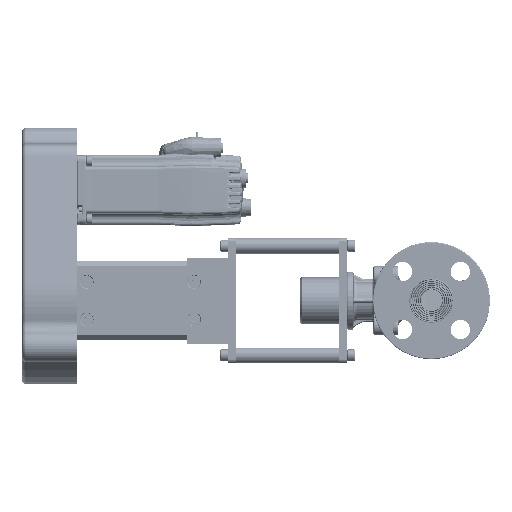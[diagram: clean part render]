
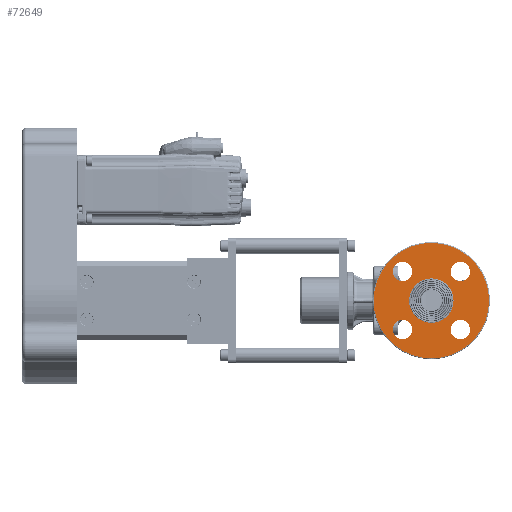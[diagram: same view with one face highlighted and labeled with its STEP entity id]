
A CAD part, left-side view. The second image highlights one B-rep face of the part: STEP entity #72649.
In plain terms, the highlighted planar face has unit normal (-1, 0, 0) as drawn and (1, 0, 0) by its records, which use the part's own axes.
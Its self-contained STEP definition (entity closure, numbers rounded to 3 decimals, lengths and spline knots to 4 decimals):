
#1440 = EDGE_LOOP ( 'NONE', ( #9966, #9967 ) ) ;
#1455 = EDGE_LOOP ( 'NONE', ( #9964, #9965 ) ) ;
#1493 = EDGE_LOOP ( 'NONE', ( #9970, #9971 ) ) ;
#1563 = EDGE_LOOP ( 'NONE', ( #9960, #9961 ) ) ;
#1647 = EDGE_LOOP ( 'NONE', ( #9968, #9969 ) ) ;
#1649 = EDGE_LOOP ( 'NONE', ( #9962, #9963 ) ) ;
#9960 = ORIENTED_EDGE ( 'NONE', *, *, #69427, .T. ) ;
#9961 = ORIENTED_EDGE ( 'NONE', *, *, #67299, .T. ) ;
#9962 = ORIENTED_EDGE ( 'NONE', *, *, #69428, .T. ) ;
#9963 = ORIENTED_EDGE ( 'NONE', *, *, #67321, .T. ) ;
#9964 = ORIENTED_EDGE ( 'NONE', *, *, #67752, .T. ) ;
#9965 = ORIENTED_EDGE ( 'NONE', *, *, #69395, .T. ) ;
#9966 = ORIENTED_EDGE ( 'NONE', *, *, #67745, .T. ) ;
#9967 = ORIENTED_EDGE ( 'NONE', *, *, #69396, .T. ) ;
#9968 = ORIENTED_EDGE ( 'NONE', *, *, #67737, .T. ) ;
#9969 = ORIENTED_EDGE ( 'NONE', *, *, #69397, .T. ) ;
#9970 = ORIENTED_EDGE ( 'NONE', *, *, #67731, .T. ) ;
#9971 = ORIENTED_EDGE ( 'NONE', *, *, #69398, .T. ) ;
#11886 = VERTEX_POINT ( 'NONE', #35106 ) ;
#11941 = VERTEX_POINT ( 'NONE', #35034 ) ;
#11991 = VERTEX_POINT ( 'NONE', #35253 ) ;
#12008 = VERTEX_POINT ( 'NONE', #35213 ) ;
#12083 = VERTEX_POINT ( 'NONE', #37462 ) ;
#12100 = VERTEX_POINT ( 'NONE', #36263 ) ;
#15211 = DIRECTION ( 'NONE',  ( -1., 0., 0. ) ) ;
#15218 = PLANE ( 'NONE',  #88875 ) ;
#15220 = CARTESIAN_POINT ( 'NONE',  ( 3.7825, 1.875, 0. ) ) ;
#15222 = DIRECTION ( 'NONE',  ( 0., 0., 1. ) ) ;
#31041 = CIRCLE ( 'NONE', #105090, 1.845 ) ;
#31054 = CIRCLE ( 'NONE', #105118, 0.71 ) ;
#33884 = CARTESIAN_POINT ( 'NONE',  ( 3.7825, 0., 1.845 ) ) ;
#33896 = CARTESIAN_POINT ( 'NONE',  ( 3.7825, -0.9263, -1.2363 ) ) ;
#33984 = CARTESIAN_POINT ( 'NONE',  ( 3.7825, 0.9263, -1.2363 ) ) ;
#34101 = CARTESIAN_POINT ( 'NONE',  ( 3.7825, 0.9263, -0.6163 ) ) ;
#35034 = CARTESIAN_POINT ( 'NONE',  ( 3.7825, 0.9263, 0.6163 ) ) ;
#35106 = CARTESIAN_POINT ( 'NONE',  ( 3.7825, 0., -0.71 ) ) ;
#35213 = CARTESIAN_POINT ( 'NONE',  ( 3.7825, 0.9263, 1.2363 ) ) ;
#35253 = CARTESIAN_POINT ( 'NONE',  ( 3.7825, -0.9263, -0.6163 ) ) ;
#36263 = CARTESIAN_POINT ( 'NONE',  ( 3.7825, 0., 0.71 ) ) ;
#37462 = CARTESIAN_POINT ( 'NONE',  ( 3.7825, 0., -1.845 ) ) ;
#47023 = CARTESIAN_POINT ( 'NONE',  ( 3.7825, -0.9263, 1.2363 ) ) ;
#47054 = CARTESIAN_POINT ( 'NONE',  ( 3.7825, -0.9263, 0.6163 ) ) ;
#67299 = EDGE_CURVE ( 'NONE', #12083, #102122, #31041, .T. ) ;
#67321 = EDGE_CURVE ( 'NONE', #11886, #12100, #31054, .T. ) ;
#67731 = EDGE_CURVE ( 'NONE', #102149, #11991, #81716, .T. ) ;
#67737 = EDGE_CURVE ( 'NONE', #93982, #93884, #81722, .T. ) ;
#67745 = EDGE_CURVE ( 'NONE', #11941, #12008, #81728, .T. ) ;
#67752 = EDGE_CURVE ( 'NONE', #102372, #102666, #81734, .T. ) ;
#69395 = EDGE_CURVE ( 'NONE', #102666, #102372, #108672, .T. ) ;
#69396 = EDGE_CURVE ( 'NONE', #12008, #11941, #108674, .T. ) ;
#69397 = EDGE_CURVE ( 'NONE', #93884, #93982, #108677, .T. ) ;
#69398 = EDGE_CURVE ( 'NONE', #11991, #102149, #108680, .T. ) ;
#69427 = EDGE_CURVE ( 'NONE', #102122, #12083, #108764, .T. ) ;
#69428 = EDGE_CURVE ( 'NONE', #12100, #11886, #108767, .T. ) ;
#72649 = ADVANCED_FACE ( 'NONE', ( #138603, #138611, #138573, #138607, #138609, #138612 ), #15218, .F. ) ;
#80414 = CARTESIAN_POINT ( 'NONE',  ( 3.7825, 0., 0. ) ) ;
#80416 = DIRECTION ( 'NONE',  ( 1., 0., 0. ) ) ;
#80418 = DIRECTION ( 'NONE',  ( 0., 0., 1. ) ) ;
#80495 = CARTESIAN_POINT ( 'NONE',  ( 3.7825, 0., 0. ) ) ;
#80497 = DIRECTION ( 'NONE',  ( -1., 0., 0. ) ) ;
#80499 = DIRECTION ( 'NONE',  ( 0., 0., 1. ) ) ;
#81716 = CIRCLE ( 'NONE', #85731, 0.31 ) ;
#81722 = CIRCLE ( 'NONE', #85733, 0.31 ) ;
#81728 = CIRCLE ( 'NONE', #85735, 0.31 ) ;
#81734 = CIRCLE ( 'NONE', #85737, 0.31 ) ;
#85731 = AXIS2_PLACEMENT_3D ( 'NONE', #90392, #90394, #90396 ) ;
#85733 = AXIS2_PLACEMENT_3D ( 'NONE', #90416, #90418, #90420 ) ;
#85735 = AXIS2_PLACEMENT_3D ( 'NONE', #90440, #90441, #90443 ) ;
#85737 = AXIS2_PLACEMENT_3D ( 'NONE', #90463, #90465, #90467 ) ;
#86497 = AXIS2_PLACEMENT_3D ( 'NONE', #117696, #117699, #117702 ) ;
#86500 = AXIS2_PLACEMENT_3D ( 'NONE', #117708, #117711, #117714 ) ;
#86502 = AXIS2_PLACEMENT_3D ( 'NONE', #117721, #117723, #117726 ) ;
#86504 = AXIS2_PLACEMENT_3D ( 'NONE', #117733, #117736, #117738 ) ;
#86572 = AXIS2_PLACEMENT_3D ( 'NONE', #118062, #118065, #118068 ) ;
#86574 = AXIS2_PLACEMENT_3D ( 'NONE', #118074, #118077, #118080 ) ;
#88875 = AXIS2_PLACEMENT_3D ( 'NONE', #15220, #15211, #15222 ) ;
#90392 = CARTESIAN_POINT ( 'NONE',  ( 3.7825, -0.9263, -0.9263 ) ) ;
#90394 = DIRECTION ( 'NONE',  ( -1., 0., 0. ) ) ;
#90396 = DIRECTION ( 'NONE',  ( 0., 0., 1. ) ) ;
#90416 = CARTESIAN_POINT ( 'NONE',  ( 3.7825, -0.9263, 0.9263 ) ) ;
#90418 = DIRECTION ( 'NONE',  ( -1., 0., 0. ) ) ;
#90420 = DIRECTION ( 'NONE',  ( 0., 0., 1. ) ) ;
#90440 = CARTESIAN_POINT ( 'NONE',  ( 3.7825, 0.9263, 0.9263 ) ) ;
#90441 = DIRECTION ( 'NONE',  ( -1., 0., 0. ) ) ;
#90443 = DIRECTION ( 'NONE',  ( 0., 0., 1. ) ) ;
#90463 = CARTESIAN_POINT ( 'NONE',  ( 3.7825, 0.9263, -0.9263 ) ) ;
#90465 = DIRECTION ( 'NONE',  ( -1., 0., 0. ) ) ;
#90467 = DIRECTION ( 'NONE',  ( 0., 0., 1. ) ) ;
#93884 = VERTEX_POINT ( 'NONE', #47023 ) ;
#93982 = VERTEX_POINT ( 'NONE', #47054 ) ;
#102122 = VERTEX_POINT ( 'NONE', #33884 ) ;
#102149 = VERTEX_POINT ( 'NONE', #33896 ) ;
#102372 = VERTEX_POINT ( 'NONE', #33984 ) ;
#102666 = VERTEX_POINT ( 'NONE', #34101 ) ;
#105090 = AXIS2_PLACEMENT_3D ( 'NONE', #80414, #80416, #80418 ) ;
#105118 = AXIS2_PLACEMENT_3D ( 'NONE', #80495, #80497, #80499 ) ;
#108672 = CIRCLE ( 'NONE', #86497, 0.31 ) ;
#108674 = CIRCLE ( 'NONE', #86500, 0.31 ) ;
#108677 = CIRCLE ( 'NONE', #86502, 0.31 ) ;
#108680 = CIRCLE ( 'NONE', #86504, 0.31 ) ;
#108764 = CIRCLE ( 'NONE', #86572, 1.845 ) ;
#108767 = CIRCLE ( 'NONE', #86574, 0.71 ) ;
#117696 = CARTESIAN_POINT ( 'NONE',  ( 3.7825, 0.9263, -0.9263 ) ) ;
#117699 = DIRECTION ( 'NONE',  ( -1., 0., 0. ) ) ;
#117702 = DIRECTION ( 'NONE',  ( 0., 0., 1. ) ) ;
#117708 = CARTESIAN_POINT ( 'NONE',  ( 3.7825, 0.9263, 0.9263 ) ) ;
#117711 = DIRECTION ( 'NONE',  ( -1., 0., 0. ) ) ;
#117714 = DIRECTION ( 'NONE',  ( 0., 0., 1. ) ) ;
#117721 = CARTESIAN_POINT ( 'NONE',  ( 3.7825, -0.9263, 0.9263 ) ) ;
#117723 = DIRECTION ( 'NONE',  ( -1., 0., 0. ) ) ;
#117726 = DIRECTION ( 'NONE',  ( 0., 0., 1. ) ) ;
#117733 = CARTESIAN_POINT ( 'NONE',  ( 3.7825, -0.9263, -0.9263 ) ) ;
#117736 = DIRECTION ( 'NONE',  ( -1., 0., 0. ) ) ;
#117738 = DIRECTION ( 'NONE',  ( 0., 0., 1. ) ) ;
#118062 = CARTESIAN_POINT ( 'NONE',  ( 3.7825, 0., 0. ) ) ;
#118065 = DIRECTION ( 'NONE',  ( 1., 0., 0. ) ) ;
#118068 = DIRECTION ( 'NONE',  ( 0., 0., 1. ) ) ;
#118074 = CARTESIAN_POINT ( 'NONE',  ( 3.7825, 0., 0. ) ) ;
#118077 = DIRECTION ( 'NONE',  ( -1., 0., 0. ) ) ;
#118080 = DIRECTION ( 'NONE',  ( 0., 0., 1. ) ) ;
#138573 = FACE_BOUND ( 'NONE', #1455, .T. ) ;
#138603 = FACE_OUTER_BOUND ( 'NONE', #1563, .T. ) ;
#138607 = FACE_BOUND ( 'NONE', #1440, .T. ) ;
#138609 = FACE_BOUND ( 'NONE', #1647, .T. ) ;
#138611 = FACE_BOUND ( 'NONE', #1649, .T. ) ;
#138612 = FACE_BOUND ( 'NONE', #1493, .T. ) ;
